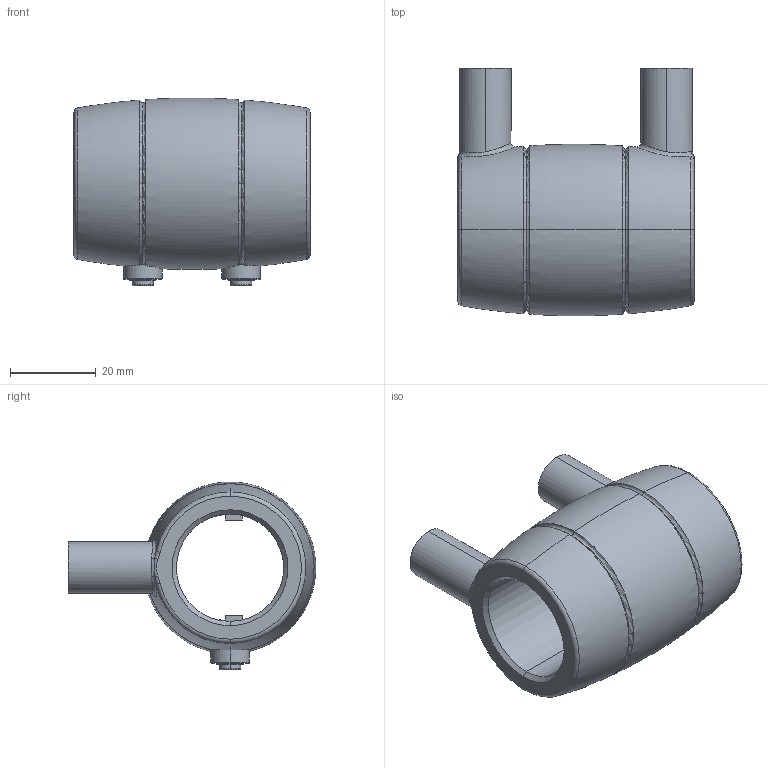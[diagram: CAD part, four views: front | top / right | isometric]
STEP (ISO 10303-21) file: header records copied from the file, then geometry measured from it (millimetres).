
FILE_DESCRIPTION (( 'STEP AP203' ), '1' );
FILE_NAME ('KP_2-25.step', '2011-08-08T12:06:12', ( '' ), ( '' ), 'SwSTEP 2.0', 'SolidWorks 2011', '' );
FILE_SCHEMA (( 'CONFIG_CONTROL_DESIGN' ));
Length unit declared in the file: millimetre
Products named in the file (1): KP_2-25
Bounding box: 55 x 57.67 x 43.77 mm (x, y, z)
Volume: 39288 mm3; surface area: 14856.3 mm2
Topology: 1 solids, 1 shells, 110 faces, 264 edges, 160 vertices
Faces by surface type: torus 34, cylinder 30, plane 24, bspline 10, cone 8, sphere 4
Entity records: 4579 total; most frequent: CARTESIAN_POINT 1979, DIRECTION 554, ORIENTED_EDGE 520, EDGE_CURVE 260, AXIS2_PLACEMENT_3D 247, VERTEX_POINT 160, CIRCLE 146, EDGE_LOOP 124
